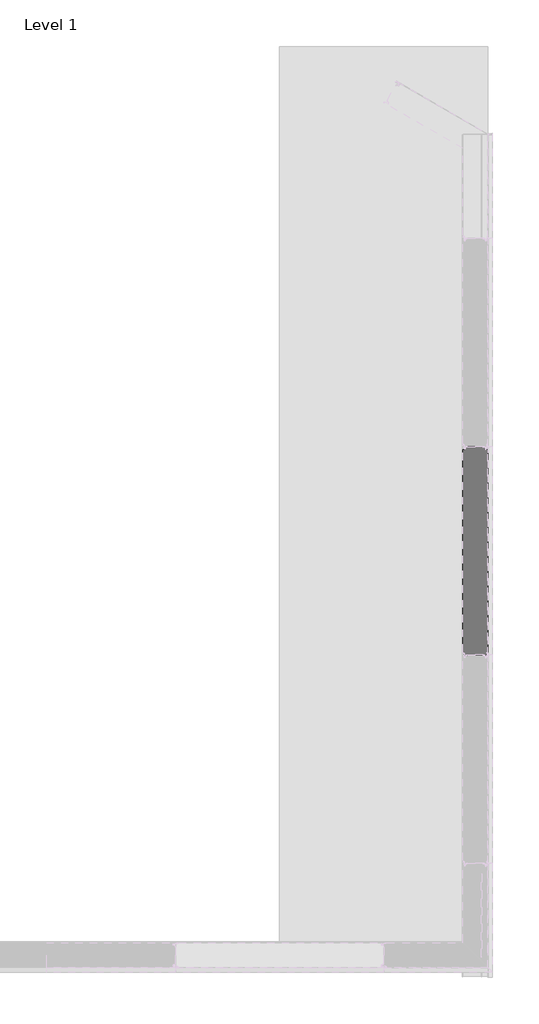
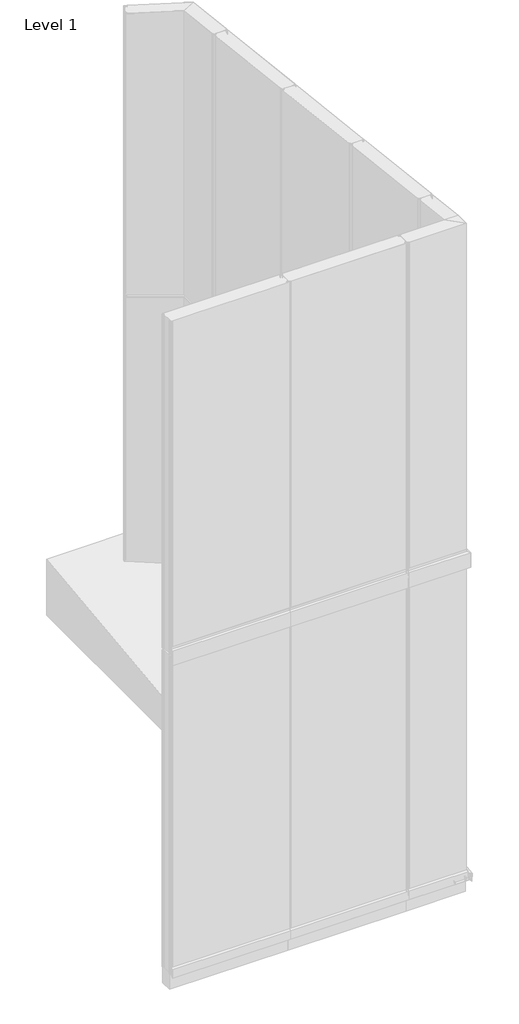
# One storey, part 8 of 16: 1 plate.
"""IFC4 building model written with IfcOpenShell, lengths in millimetres."""

import ifcopenshell
import ifcopenshell.guid

model = None  # the IFC model being written
_history = None  # IfcOwnerHistory: only IFC2X3 demands one
_inside = {}  # id of a spatial element -> (the spatial element, [elements in it])
_under = {}  # id of a project, library or spatial element -> (it, [spatial elements below it])
_declared = {}  # id of a project -> (the project, [libraries it declares])
_typed = {}  # id of a type object -> (the type object, [elements of that type])
_made_of = {}  # id of a material, layer set ... -> (it, [elements and type objects made of it])


def new_model(schema):
    """Start an empty IFC model of exactly this schema.

    Asked for "IFC4X3", IfcOpenShell would pick the latest addendum, in which some entities
    have other attributes; the version numbers below select the first issue.
    IFC2X3 requires an IfcOwnerHistory on every rooted entity: one is made here for all.
    """
    global model, _history
    if schema == "IFC4X3":
        model = ifcopenshell.file(schema_version=(4, 3, 0, 0))
    else:
        model = ifcopenshell.file(schema=schema)
    _inside.clear()
    _under.clear()
    _declared.clear()
    _typed.clear()
    _made_of.clear()
    _history = None
    if model.schema == "IFC2X3":
        org = make("IfcOrganization", Name="unknown")
        user = make(
            "IfcPersonAndOrganization",
            ThePerson=make("IfcPerson", FamilyName="unknown"),
            TheOrganization=org,
        )
        app = make(
            "IfcApplication",
            ApplicationDeveloper=org,
            Version="unknown",
            ApplicationFullName="unknown",
            ApplicationIdentifier="unknown",
        )
        _history = make(
            "IfcOwnerHistory",
            OwningUser=user,
            OwningApplication=app,
            ChangeAction="ADDED",
            CreationDate=0,
        )
    return model


def make(cls, **values):
    """One entity of the class cls with the attributes given. An attribute that is None is left unset."""
    return model.create_entity(
        cls, **{name: value for name, value in values.items() if value is not None}
    )


def rooted(cls, **values):
    """An entity with a GlobalId (a new one), such as an element, a storey or a relation."""
    return make(cls, GlobalId=ifcopenshell.guid.new(), OwnerHistory=_history, **values)


def si_unit(unit_type, name, prefix=None):
    """IfcSIUnit, for example si_unit("LENGTHUNIT", "METRE", prefix="MILLI")."""
    return make("IfcSIUnit", UnitType=unit_type, Prefix=prefix, Name=name)


def assignment(units):
    """IfcUnitAssignment: the units of a project."""
    return None if units is None else make("IfcUnitAssignment", Units=units)


def point(xyz):
    """IfcCartesianPoint."""
    return None if xyz is None else make("IfcCartesianPoint", Coordinates=xyz)


def direction(xyz):
    """IfcDirection."""
    return None if xyz is None else make("IfcDirection", DirectionRatios=xyz)


def frame(location, z_axis=None, x_axis=None):
    """IfcAxis2Placement3D, a coordinate frame: its origin and axes. An axis left out is left unset."""
    return make(
        "IfcAxis2Placement3D",
        Location=point(location),
        Axis=direction(z_axis),
        RefDirection=direction(x_axis),
    )


def origin():
    """The frame at (0, 0, 0) with its axes left unset."""
    return frame((0.0, 0.0, 0.0))


def place(relative_to, where):
    """IfcLocalPlacement: puts the frame where relative to a parent placement (None: the world)."""
    return make(
        "IfcLocalPlacement", PlacementRelTo=relative_to, RelativePlacement=where
    )


def context(
    kind, dimensions, precision=None, world=None, true_north=None, identifier=None
):
    """IfcGeometricRepresentationContext, for example the 3D "Model" context."""
    return make(
        "IfcGeometricRepresentationContext",
        ContextIdentifier=identifier,
        ContextType=kind,
        CoordinateSpaceDimension=dimensions,
        Precision=precision,
        WorldCoordinateSystem=world,
        TrueNorth=true_north,
    )


def project(units=None, contexts=None):
    """IfcProject with its units and contexts."""
    return rooted(
        "IfcProject",
        Name="project",
        RepresentationContexts=contexts,
        UnitsInContext=assignment(units),
    )


def spatial(cls, under=None, at=None, **own):
    """A site, building, storey or space (cls), placed at a placement, below another one or the project."""
    s = rooted(cls, ObjectPlacement=at, **own)
    if under is not None:
        _under.setdefault(under.id(), (under, []))[1].append(s)
    return s


def polyline(points):
    """IfcPolyline through the points."""
    return make("IfcPolyline", Points=[point(p) for p in points])


def circle_curve(where, radius):
    """IfcCircle in the frame where."""
    return make("IfcCircle", Position=where, Radius=radius)


def ellipse_curve(where, semi_axis1, semi_axis2):
    """IfcEllipse in the frame where."""
    return make(
        "IfcEllipse", Position=where, SemiAxis1=semi_axis1, SemiAxis2=semi_axis2
    )


def shape(context_of_items, identifier, shape_type, items):
    """IfcShapeRepresentation: the items that make up one representation, for example the "Body"."""
    return make(
        "IfcShapeRepresentation",
        ContextOfItems=context_of_items,
        RepresentationIdentifier=identifier,
        RepresentationType=shape_type,
        Items=items,
    )


def made_of(thing, what):
    """Note that an element or type object is made of a material, layer set ...; save() writes the relation."""
    if what is not None:
        _made_of.setdefault(what.id(), (what, []))[1].append(thing)
    return thing


def element(
    cls,
    number,
    at=None,
    inside=None,
    cuts=None,
    type_object=None,
    material=None,
    context=None,
    identifier="Body",
    shape_type=None,
    held_by="IfcProductDefinitionShape",
    body=None,
    shapes=None,
    **own,
):
    """One element of the class cls, such as IfcWall. Its Tag is "e" and its number.

    at: its placement. inside: the storey or other place that contains it. cuts: it is an
    opening in that element (IfcRelVoidsElement). A single representation is given by context,
    identifier, shape_type and body (its items); several are given by shapes. held_by: the class
    of the entity that holds the representations. save() writes the other relations.
    """
    e = rooted(cls, Tag="e%d" % number, ObjectPlacement=at, **own)
    if body is not None:
        shapes = [shape(context, identifier, shape_type, body)]
    if shapes is not None:
        e.Representation = make(held_by, Representations=shapes)
    if inside is not None:
        _inside.setdefault(inside.id(), (inside, []))[1].append(e)
    if cuts is not None:
        rooted(
            "IfcRelVoidsElement", RelatingBuildingElement=cuts, RelatedOpeningElement=e
        )
    if type_object is not None:
        _typed.setdefault(type_object.id(), (type_object, []))[1].append(e)
    return made_of(e, material)


def aggregate(whole, parts):
    """IfcRelAggregates: a whole, such as a stair, and the parts it consists of."""
    return rooted("IfcRelAggregates", RelatingObject=whole, RelatedObjects=parts)


def save(model, path):
    """Write the relations noted so far, then the file.

    IfcRelAggregates (storeys below a building ...), IfcRelContainedInSpatialStructure (elements
    in a storey), IfcRelDefinesByType, IfcRelAssociatesMaterial and IfcRelDeclares: one each for
    every whole, place, type object, material and project.
    """
    for whole, parts in _under.values():
        aggregate(whole, parts)
    for where, things in _inside.values():
        rooted(
            "IfcRelContainedInSpatialStructure",
            RelatedElements=things,
            RelatingStructure=where,
        )
    for kind, things in _typed.values():
        rooted("IfcRelDefinesByType", RelatedObjects=things, RelatingType=kind)
    for what, things in _made_of.values():
        rooted("IfcRelAssociatesMaterial", RelatedObjects=things, RelatingMaterial=what)
    for by, libraries in _declared.values():
        rooted("IfcRelDeclares", RelatingContext=by, RelatedDefinitions=libraries)
    model.write(path)


def plane_surface(at):
    """IfcPlane: the flat surface through the origin of the frame at, square to its z axis."""
    return make("IfcPlane", Position=at)


def cylinder_surface(at, radius):
    """IfcCylindricalSurface: all points at the distance radius from the z axis of the frame at."""
    return make("IfcCylindricalSurface", Position=at, Radius=radius)


def revolved_surface(curve, axis_point, axis_direction):
    """IfcSurfaceOfRevolution: the curve turned about the line through axis_point along axis_direction."""
    return make(
        "IfcSurfaceOfRevolution",
        SweptCurve=make("IfcArbitraryOpenProfileDef", ProfileType="CURVE", Curve=curve),
        AxisPosition=make("IfcAxis1Placement", Location=point(axis_point), Axis=direction(axis_direction)),
    )


def advanced_brep(points, edges, surfaces, faces):
    """IfcAdvancedBrep: a solid bounded by faces that lie on surfaces and meet in shared edges.

    An edge is (start, end): straight between two places in points (the first is 0);
    or (start, end, curve); or (start, end, curve, False) where it runs against its curve.
    A face is (place in surfaces, loops), or (place, loops, False) where it looks against
    its surface's normal. A loop lists edges by number (the first is 1), with a minus sign
    where the edge is run from its end to its start. The first loop is the outer one.
    """
    corners = [point(p) for p in points]
    vertices = [make("IfcVertexPoint", VertexGeometry=c) for c in corners]
    made = []
    for start, end, *more in edges:
        made.append(
            make(
                "IfcEdgeCurve",
                EdgeStart=vertices[start],
                EdgeEnd=vertices[end],
                EdgeGeometry=more[0] if more else make("IfcPolyline", Points=[corners[start], corners[end]]),
                SameSense=more[1] if len(more) > 1 else True,
            )
        )
    hull = []
    for where, loops, *sense in faces:
        bounds = []
        for j, loop in enumerate(loops):
            ring = [make("IfcOrientedEdge", EdgeElement=made[abs(k) - 1], Orientation=k > 0) for k in loop]
            bounds.append(
                make(
                    "IfcFaceOuterBound" if j == 0 else "IfcFaceBound",
                    Bound=make("IfcEdgeLoop", EdgeList=ring),
                    Orientation=True,
                )
            )
        hull.append(make("IfcAdvancedFace", Bounds=bounds, FaceSurface=surfaces[where], SameSense=sense[0] if sense else True))
    return make("IfcAdvancedBrep", Outer=make("IfcClosedShell", CfsFaces=hull))


model = new_model("IFC4")

# Units and contexts
model_context = context("Model", 3, world=origin())
ifc_project = project(units=[si_unit("LENGTHUNIT", "METRE", prefix="MILLI")], contexts=[model_context])

# Site, building, storey
site = spatial("IfcSite", under=ifc_project)
building = spatial("IfcBuilding", under=site)
storey = spatial("IfcBuildingStorey", under=building, Name="Level 1", Elevation=0.0)

# Plate
placement = place(None, origin())
element("IfcPlate", 1, ObjectType="TR_C_V_FTV_Panel : 120/RAL9006/RAL9002", at=placement, inside=storey, context=model_context, shape_type="AdvancedBrep", body=[
    advanced_brep(
    [(-11.0024729, 5469.8069107, 2980.0), (-15.1155057, 5469.8069107, 2980.0), (-15.1155057, 5469.0069107, 2980.0), (-11.0024729, 5469.0069107, 2980.0), (-7.3094438, 5465.9080913, 2980.0), (-6.5661308, 5461.6925541, 2980.0), (-0.1155057, 5462.2569107, 2980.0), (-0.1155057, 5477.0069107, 2980.0), (0.6167274, 5478.7746776, 2980.0), (5.0058147, 5483.1637649, 2980.0), (5.8844943, 5485.2850853, 2980.0), (5.8844943, 6474.6255398, 2980.0), (5.079038, 6476.5700835, 2980.0), (3.2133526, 6478.4357689, 2980.0), (-0.1155057, 6477.0569107, 2980.0), (-0.1155057, 6459.4569107, 2980.0), (-6.9630924, 6458.8578244, 2980.0), (-8.0299177, 6464.9080913, 2980.0), (-11.7229468, 6468.0069107, 2980.0), (-15.1155057, 6468.0069107, 2980.0), (-15.1155057, 6467.2069107, 2980.0), (-11.7229468, 6467.2069107, 2980.0), (-8.8177639, 6464.7691728, 2980.0), (-7.7509386, 6458.7189059, 2980.0), (0.6844943, 6459.4569107, 2980.0), (0.6844943, 6477.0569107, 2980.0), (2.6476671, 6477.8700835, 2980.0), (4.5133526, 6476.004398, 2980.0), (5.0844943, 6474.6255398, 2980.0), (5.0844943, 5485.2850853, 2980.0), (4.4401293, 5483.7294503, 2980.0), (0.051042, 5479.340363, 2980.0), (-0.9155057, 5477.0069107, 2980.0), (-0.9155057, 5462.2569107, 2980.0), (-5.7782846, 5461.8314726, 2980.0), (-6.5215976, 5466.0470099, 2980.0), (-11.0024729, 5469.8069107, 310.4883719), (-15.1155057, 5469.8069107, 310.4883719), (-15.1155057, 5469.0069107, 310.3953487), (-11.0024729, 5469.0069107, 310.3953487), (-7.3094438, 5465.9080913, 310.0350208), (-6.5661308, 5461.6925541, 309.5448421), (-0.1155057, 5462.2569107, 309.6104649), (-0.1155057, 5477.0069107, 311.3255812), (0.6167274, 5478.7746776, 311.5311355), (5.0058147, 5483.1637649, 312.0414945), (5.8844943, 5485.2850853, 312.2881597), (5.8844943, 6474.6255398, 427.3277474), (5.079038, 6476.5700835, 427.5538571), (3.2133526, 6478.4357689, 427.7707973), (-0.1155057, 6477.0569107, 427.6104649), (-0.1155057, 6459.4569107, 425.5639533), (-6.9630924, 6458.8578244, 425.4942921), (-8.0299177, 6464.9080913, 426.1978115), (-11.7229468, 6468.0069107, 426.5581394), (-15.1155057, 6468.0069107, 426.5581394), (-15.1155057, 6467.2069107, 426.4651161), (-11.7229468, 6467.2069107, 426.4651161), (-8.8177639, 6464.7691728, 426.1816582), (-7.7509386, 6458.7189059, 425.4781388), (0.6844943, 6459.4569107, 425.5639533), (0.6844943, 6477.0569107, 427.6104649), (2.6476671, 6477.8700835, 427.7050199), (4.5133526, 6476.004398, 427.4880798), (5.0844943, 6474.6255398, 427.3277474), (5.0844943, 5485.2850853, 312.2881597), (4.4401293, 5483.7294503, 312.1072719), (0.051042, 5479.340363, 311.5969129), (-0.9155057, 5477.0069107, 311.3255812), (-0.9155057, 5462.2569107, 309.6104649), (-5.7782846, 5461.8314726, 309.5609954), (-6.5215976, 5466.0470099, 310.0511742)],
    [
        (0, 1),
        (1, 2),
        (2, 3),
        (3, 4, circle_curve(frame((-11.0024729, 5465.2569107, 2980.0), z_axis=(0.0, 0.0, -1.0), x_axis=(0.0, -1.0, 0.0)), 3.75)),
        (4, 5),
        (5, 6, circle_curve(frame((-3.3655057, 5462.2569107, 2980.0), z_axis=(0.0, 0.0, 1.0), x_axis=(0.0, -1.0, 0.0)), 3.25)),
        (6, 7),
        (7, 8, circle_curve(frame((2.3844943, 5477.0069107, 2980.0), z_axis=(0.0, 0.0, -1.0), x_axis=(0.0, -1.0, 0.0)), 2.5)),
        (8, 9),
        (9, 10, circle_curve(frame((2.8844943, 5485.2850853, 2980.0), z_axis=(0.0, 0.0, 1.0), x_axis=(0.0, -1.0, 0.0)), 3.0)),
        (10, 11),
        (11, 12, circle_curve(frame((3.1344943, 6474.6255398, 2980.0), z_axis=(0.0, 0.0, 1.0), x_axis=(0.0, -1.0, 0.0)), 2.75)),
        (12, 13),
        (13, 14, circle_curve(frame((1.8344943, 6477.0569107, 2980.0), z_axis=(0.0, 0.0, 1.0), x_axis=(0.0, -1.0, 0.0)), 1.95)),
        (14, 15),
        (15, 16, circle_curve(frame((-3.5655057, 6459.4569107, 2980.0), z_axis=(0.0, 0.0, -1.0), x_axis=(0.0, -1.0, 0.0)), 3.45)),
        (16, 17),
        (17, 18, circle_curve(frame((-11.7229468, 6464.2569107, 2980.0), z_axis=(0.0, 0.0, 1.0), x_axis=(0.0, -1.0, 0.0)), 3.75)),
        (18, 19),
        (19, 20),
        (20, 21),
        (21, 22, circle_curve(frame((-11.7229468, 6464.2569107, 2980.0), z_axis=(0.0, 0.0, -1.0), x_axis=(0.0, -1.0, 0.0)), 2.95)),
        (22, 23),
        (23, 24, circle_curve(frame((-3.5655057, 6459.4569107, 2980.0), z_axis=(0.0, 0.0, 1.0), x_axis=(0.0, -1.0, 0.0)), 4.25)),
        (24, 25),
        (25, 26, circle_curve(frame((1.8344943, 6477.0569107, 2980.0), z_axis=(0.0, 0.0, -1.0), x_axis=(0.0, -1.0, 0.0)), 1.15)),
        (26, 27),
        (27, 28, circle_curve(frame((3.1344943, 6474.6255398, 2980.0), z_axis=(0.0, 0.0, -1.0), x_axis=(0.0, -1.0, 0.0)), 1.95)),
        (28, 29),
        (29, 30, circle_curve(frame((2.8844943, 5485.2850853, 2980.0), z_axis=(0.0, 0.0, -1.0), x_axis=(0.0, -1.0, 0.0)), 2.2)),
        (30, 31),
        (31, 32, circle_curve(frame((2.3844943, 5477.0069107, 2980.0), z_axis=(0.0, 0.0, 1.0), x_axis=(0.0, -1.0, 0.0)), 3.3)),
        (32, 33),
        (33, 34, circle_curve(frame((-3.3655057, 5462.2569107, 2980.0), z_axis=(0.0, 0.0, -1.0), x_axis=(0.0, -1.0, 0.0)), 2.45)),
        (34, 35),
        (35, 0, circle_curve(frame((-11.0024729, 5465.2569107, 2980.0), z_axis=(0.0, 0.0, 1.0), x_axis=(0.0, -1.0, 0.0)), 4.55)),
        (0, 36),
        (36, 37),
        (37, 1),
        (37, 38),
        (38, 2),
        (38, 39),
        (39, 3),
        (39, 40, ellipse_curve(frame((-11.0024729, 5465.2569107, 309.9593022), z_axis=(0.0, 0.11550085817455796, -0.9933073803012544), x_axis=(0.0, -0.9933073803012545, -0.11550085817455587)), 3.7752664, 3.75)),
        (40, 4),
        (40, 41),
        (41, 5),
        (41, 42, ellipse_curve(frame((-3.3655057, 5462.2569107, 309.6104649), z_axis=(0.0, -0.11550085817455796, 0.9933073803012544), x_axis=(0.0, 0.9933073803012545, 0.11550085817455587)), 3.2718976, 3.25)),
        (42, 6),
        (42, 43),
        (43, 7),
        (43, 44, ellipse_curve(frame((2.3844943, 5477.0069107, 311.3255812), z_axis=(0.0, 0.11550085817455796, -0.9933073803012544), x_axis=(0.0, -0.9933073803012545, -0.11550085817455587)), 2.5168443, 2.5)),
        (44, 8),
        (44, 45),
        (45, 9),
        (45, 46, ellipse_curve(frame((2.8844943, 5485.2850853, 312.2881597), z_axis=(0.0, -0.11550085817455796, 0.9933073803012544), x_axis=(0.0, 0.9933073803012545, 0.11550085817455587)), 3.0202131, 3.0)),
        (46, 10),
        (46, 47),
        (47, 11),
        (47, 48, ellipse_curve(frame((3.1344943, 6474.6255398, 427.3277474), z_axis=(0.0, -0.11550085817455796, 0.9933073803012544), x_axis=(0.0, 0.9933073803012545, 0.11550085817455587)), 2.7685287, 2.75)),
        (48, 12),
        (48, 49),
        (49, 13),
        (49, 50, ellipse_curve(frame((1.8344943, 6477.0569107, 427.6104649), z_axis=(0.0, -0.11550085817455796, 0.9933073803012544), x_axis=(0.0, 0.9933073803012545, 0.11550085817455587)), 1.9631385, 1.95)),
        (50, 14),
        (50, 51),
        (51, 15),
        (51, 52, ellipse_curve(frame((-3.5655057, 6459.4569107, 425.5639533), z_axis=(0.0, 0.11550085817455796, -0.9933073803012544), x_axis=(0.0, -0.9933073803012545, -0.11550085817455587)), 3.4732451, 3.45)),
        (52, 16),
        (52, 53),
        (53, 17),
        (53, 54, ellipse_curve(frame((-11.7229468, 6464.2569107, 426.1220929), z_axis=(0.0, -0.11550085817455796, 0.9933073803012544), x_axis=(0.0, 0.9933073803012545, 0.11550085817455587)), 3.7752664, 3.75)),
        (54, 18),
        (54, 55),
        (55, 19),
        (55, 56),
        (56, 20),
        (56, 57),
        (57, 21),
        (57, 58, ellipse_curve(frame((-11.7229468, 6464.2569107, 426.1220929), z_axis=(0.0, 0.11550085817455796, -0.9933073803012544), x_axis=(0.0, -0.9933073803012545, -0.11550085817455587)), 2.9698763, 2.95)),
        (58, 22),
        (58, 59),
        (59, 23),
        (59, 60, ellipse_curve(frame((-3.5655057, 6459.4569107, 425.5639533), z_axis=(0.0, -0.11550085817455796, 0.9933073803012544), x_axis=(0.0, 0.9933073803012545, 0.11550085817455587)), 4.2786353, 4.25)),
        (60, 24),
        (60, 61),
        (61, 25),
        (61, 62, ellipse_curve(frame((1.8344943, 6477.0569107, 427.6104649), z_axis=(0.0, 0.11550085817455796, -0.9933073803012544), x_axis=(0.0, -0.9933073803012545, -0.11550085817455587)), 1.1577484, 1.15)),
        (62, 26),
        (62, 63),
        (63, 27),
        (63, 64, ellipse_curve(frame((3.1344943, 6474.6255398, 427.3277474), z_axis=(0.0, 0.11550085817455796, -0.9933073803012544), x_axis=(0.0, -0.9933073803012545, -0.11550085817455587)), 1.9631385, 1.95)),
        (64, 28),
        (64, 65),
        (65, 29),
        (65, 66, ellipse_curve(frame((2.8844943, 5485.2850853, 312.2881597), z_axis=(0.0, 0.11550085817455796, -0.9933073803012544), x_axis=(0.0, -0.9933073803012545, -0.11550085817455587)), 2.214823, 2.2)),
        (66, 30),
        (66, 67),
        (67, 31),
        (67, 68, ellipse_curve(frame((2.3844943, 5477.0069107, 311.3255812), z_axis=(0.0, -0.11550085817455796, 0.9933073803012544), x_axis=(0.0, 0.9933073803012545, 0.11550085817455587)), 3.3222345, 3.3)),
        (68, 32),
        (68, 69),
        (69, 33),
        (69, 70, ellipse_curve(frame((-3.3655057, 5462.2569107, 309.6104649), z_axis=(0.0, 0.11550085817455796, -0.9933073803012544), x_axis=(0.0, -0.9933073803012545, -0.11550085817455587)), 2.4665074, 2.45)),
        (70, 34),
        (70, 71),
        (71, 35),
        (71, 36, ellipse_curve(frame((-11.0024729, 5465.2569107, 309.9593022), z_axis=(0.0, -0.11550085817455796, 0.9933073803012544), x_axis=(0.0, 0.9933073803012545, 0.11550085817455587)), 4.5806566, 4.55)),
    ],
    [
        plane_surface(frame((-15.1155057, 5469.8069107, 2980.0), z_axis=(0.0, 0.0, 1.0), x_axis=(-1.0, 0.0, 0.0))),
        plane_surface(frame((-11.0024729, 5469.8069107, 2980.0), z_axis=(0.0, 1.0, 0.0), x_axis=(0.0, 0.0, -1.0))),
        plane_surface(frame((-15.1155057, 5469.8069107, 2980.0), z_axis=(-1.0, 0.0, 0.0), x_axis=(0.0, 0.0, -1.0))),
        plane_surface(frame((-15.1155057, 5469.0069107, 2980.0), z_axis=(0.0, -1.0, 0.0), x_axis=(0.0, 0.0, -1.0))),
        revolved_surface(polyline([(-11.0024729, 5461.5069107, 309.52325569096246), (-11.0024729, 5461.5069107, 2980.0)]), (-11.0024729, 5465.2569107, 150.0), (0.0, 0.0, -1.0)),
        plane_surface(frame((-7.3094438, 5465.9080913, 2980.0), z_axis=(-0.9848077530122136, -0.17364817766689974, 0.0), x_axis=(0.0, 0.0, -1.0))),
        cylinder_surface(frame((-3.3655057, 5462.2569107, 150.0), z_axis=(0.0, 0.0, 1.0), x_axis=(0.0, -1.0, 0.0)), 3.25),
        plane_surface(frame((-0.1155057, 5462.2569107, 2980.0), z_axis=(1.0, 0.0, 0.0), x_axis=(0.0, 0.0, -1.0))),
        revolved_surface(polyline([(2.3844943, 5474.5069107, 311.03488352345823), (2.3844943, 5474.5069107, 2980.0)]), (2.3844943, 5477.0069107, 150.0), (0.0, 0.0, -1.0)),
        plane_surface(frame((0.6167274, 5478.7746776, 2980.0), z_axis=(0.7071067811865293, -0.7071067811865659, 0.0), x_axis=(0.0, 0.0, -1.0))),
        cylinder_surface(frame((2.8844943, 5485.2850853, 150.0), z_axis=(0.0, 0.0, 1.0), x_axis=(0.0, -1.0, 0.0)), 3.0),
        plane_surface(frame((5.8844943, 5485.2850853, 2980.0), z_axis=(1.0, 0.0, 0.0), x_axis=(0.0, 0.0, -1.0))),
        cylinder_surface(frame((3.1344943, 6474.6255398, 150.0), z_axis=(0.0, 0.0, 1.0), x_axis=(0.0, -1.0, 0.0)), 2.75),
        plane_surface(frame((5.079038, 6476.5700835, 2980.0), z_axis=(0.7071067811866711, 0.707106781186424, 0.0), x_axis=(0.0, 0.0, -1.0))),
        cylinder_surface(frame((1.8344943, 6477.0569107, 150.0), z_axis=(0.0, 0.0, 1.0), x_axis=(0.0, -1.0, 0.0)), 1.95),
        plane_surface(frame((-0.1155057, 6477.0569107, 2980.0), z_axis=(-1.0, 0.0, 0.0), x_axis=(0.0, 0.0, -1.0))),
        revolved_surface(polyline([(-3.5655057, 6456.0069107, 425.16279051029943), (-3.5655057, 6456.0069107, 2980.0)]), (-3.5655057, 6459.4569107, 150.0), (0.0, 0.0, -1.0)),
        plane_surface(frame((-6.9630924, 6458.8578244, 2980.0), z_axis=(0.9848077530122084, 0.17364817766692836, 0.0), x_axis=(0.0, 0.0, -1.0))),
        cylinder_surface(frame((-11.7229468, 6464.2569107, 150.0), z_axis=(0.0, 0.0, 1.0), x_axis=(0.0, -1.0, 0.0)), 3.75),
        plane_surface(frame((-11.7229468, 6468.0069107, 2980.0), z_axis=(0.0, 1.0, 0.0), x_axis=(0.0, 0.0, -1.0))),
        plane_surface(frame((-15.1155057, 6468.0069107, 2980.0), z_axis=(-1.0, 0.0, 0.0), x_axis=(0.0, 0.0, -1.0))),
        plane_surface(frame((-15.1155057, 6467.2069107, 2980.0), z_axis=(0.0, -1.0, 0.0), x_axis=(0.0, 0.0, -1.0))),
        revolved_surface(polyline([(-11.7229468, 6461.3069107, 425.7790696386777), (-11.7229468, 6461.3069107, 2980.0)]), (-11.7229468, 6464.2569107, 150.0), (0.0, 0.0, -1.0)),
        plane_surface(frame((-8.8177639, 6464.7691728, 2980.0), z_axis=(-0.9848077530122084, -0.17364817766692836, 0.0), x_axis=(0.0, 0.0, -1.0))),
        cylinder_surface(frame((-3.5655057, 6459.4569107, 150.0), z_axis=(0.0, 0.0, 1.0), x_axis=(0.0, -1.0, 0.0)), 4.25),
        plane_surface(frame((0.6844943, 6459.4569107, 2980.0), z_axis=(1.0, 0.0, 0.0), x_axis=(0.0, 0.0, -1.0))),
        revolved_surface(polyline([(1.8344943, 6475.9069107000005, 427.4767439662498), (1.8344943, 6475.9069107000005, 2980.0)]), (1.8344943, 6477.0569107, 150.0), (0.0, 0.0, -1.0)),
        plane_surface(frame((2.6476671, 6477.8700835, 2980.0), z_axis=(-0.7071067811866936, -0.7071067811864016, 0.0), x_axis=(0.0, 0.0, -1.0))),
        revolved_surface(polyline([(3.1344943, 6472.6755398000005, 427.1010032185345), (3.1344943, 6472.6755398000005, 2980.0)]), (3.1344943, 6474.6255398, 150.0), (0.0, 0.0, -1.0)),
        plane_surface(frame((5.0844943, 6474.6255398, 2980.0), z_axis=(-1.0, 0.0, 0.0), x_axis=(0.0, 0.0, -1.0))),
        revolved_surface(polyline([(2.8844943, 5483.0850853, 312.03234574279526), (2.8844943, 5483.0850853, 2980.0)]), (2.8844943, 5485.2850853, 150.0), (0.0, 0.0, -1.0)),
        plane_surface(frame((4.4401293, 5483.7294503, 2980.0), z_axis=(-0.7071067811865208, 0.7071067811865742, 0.0), x_axis=(0.0, 0.0, -1.0))),
        cylinder_surface(frame((2.3844943, 5477.0069107, 150.0), z_axis=(0.0, 0.0, 1.0), x_axis=(0.0, -1.0, 0.0)), 3.3),
        plane_surface(frame((-0.9155057, 5477.0069107, 2980.0), z_axis=(-1.0, 0.0, 0.0), x_axis=(0.0, 0.0, -1.0))),
        revolved_surface(polyline([(-3.3655057, 5459.8069107, 309.3255811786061), (-3.3655057, 5459.8069107, 2980.0)]), (-3.3655057, 5462.2569107, 150.0), (0.0, 0.0, -1.0)),
        plane_surface(frame((-5.7782846, 5461.8314726, 2980.0), z_axis=(0.9848077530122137, 0.17364817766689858, 0.0), x_axis=(0.0, 0.0, -1.0))),
        cylinder_surface(frame((-11.0024729, 5465.2569107, 150.0), z_axis=(0.0, 0.0, 1.0), x_axis=(0.0, -1.0, 0.0)), 4.55),
        plane_surface(frame((5.8844943, 6239.6069121, 400.0), z_axis=(0.0, 0.11550085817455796, -0.9933073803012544), x_axis=(0.0, 0.9933073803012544, 0.11550085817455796))),
    ],
    [
        (0, [[1, 2, 3, 4, 5, 6, 7, 8, 9, 10, 11, 12, 13, 14, 15, 16, 17, 18, 19, 20, 21, 22, 23, 24, 25, 26, 27, 28, 29, 30, 31, 32, 33, 34, 35, 36]]),
        (1, [[-1, 37, 38, 39]]),
        (2, [[-2, -39, 40, 41]]),
        (3, [[-3, -41, 42, 43]]),
        (4, [[-4, -43, 44, 45]]),
        (5, [[-5, -45, 46, 47]]),
        (6, [[-6, -47, 48, 49]]),
        (7, [[-7, -49, 50, 51]]),
        (8, [[-8, -51, 52, 53]]),
        (9, [[-9, -53, 54, 55]]),
        (10, [[-10, -55, 56, 57]]),
        (11, [[-11, -57, 58, 59]]),
        (12, [[-12, -59, 60, 61]]),
        (13, [[-13, -61, 62, 63]]),
        (14, [[-14, -63, 64, 65]]),
        (15, [[-15, -65, 66, 67]]),
        (16, [[-16, -67, 68, 69]]),
        (17, [[-17, -69, 70, 71]]),
        (18, [[-18, -71, 72, 73]]),
        (19, [[-19, -73, 74, 75]]),
        (20, [[-20, -75, 76, 77]]),
        (21, [[-21, -77, 78, 79]]),
        (22, [[-22, -79, 80, 81]]),
        (23, [[-23, -81, 82, 83]]),
        (24, [[-24, -83, 84, 85]]),
        (25, [[-25, -85, 86, 87]]),
        (26, [[-26, -87, 88, 89]]),
        (27, [[-27, -89, 90, 91]]),
        (28, [[-28, -91, 92, 93]]),
        (29, [[-29, -93, 94, 95]]),
        (30, [[-30, -95, 96, 97]]),
        (31, [[-31, -97, 98, 99]]),
        (32, [[-32, -99, 100, 101]]),
        (33, [[-33, -101, 102, 103]]),
        (34, [[-34, -103, 104, 105]]),
        (35, [[-35, -105, 106, 107]]),
        (36, [[-36, -107, 108, -37]]),
        (37, [[-38, -108, -106, -104, -102, -100, -98, -96, -94, -92, -90, -88, -86, -84, -82, -80, -78, -76, -74, -72, -70, -68, -66, -64, -62, -60, -58, -56, -54, -52, -50, -48, -46, -44, -42, -40]]),
    ],
),
    advanced_brep(
    [(-17.8155057, 6469.6069107, 2980.0), (-90.4155057, 6469.6069107, 2980.0), (-90.4155057, 6467.2069107, 2980.0), (-96.5080645, 6467.2069107, 2980.0), (-99.4132474, 6464.7691728, 2980.0), (-100.4800727, 6458.7189059, 2980.0), (-104.6655057, 6455.2069107, 2980.0), (-113.3155057, 6455.2069107, 2980.0), (-113.3155057, 5485.2850853, 2980.0), (-112.6711406, 5483.7294503, 2980.0), (-108.2820533, 5479.340363, 2980.0), (-107.3155057, 5477.0069107, 2980.0), (-107.3155057, 5469.6069118, 2980.0), (-0.9155057, 5469.6069118, 2980.0), (-0.9155057, 5477.0069107, 2980.0), (0.051042, 5479.340363, 2980.0), (4.4401293, 5483.7294503, 2980.0), (5.0844943, 5485.2850853, 2980.0), (5.0844943, 6455.2069107, 2980.0), (-3.5655057, 6455.2069107, 2980.0), (-7.7509386, 6458.7189059, 2980.0), (-8.8177639, 6464.7691728, 2980.0), (-11.7229468, 6467.2069107, 2980.0), (-17.8155057, 6467.2069107, 2980.0), (-17.8155057, 6469.6069107, 426.7441859), (-90.4155057, 6469.6069107, 426.7441859), (-90.4155057, 6467.2069107, 426.4651161), (-96.5080645, 6467.2069107, 426.4651161), (-99.4132474, 6464.7691728, 426.1816582), (-100.4800727, 6458.7189059, 425.4781388), (-104.6655057, 6455.2069107, 425.0697673), (-113.3155057, 6455.2069107, 425.0697673), (-113.3155057, 5485.2850853, 312.2881597), (-112.6711406, 5483.7294503, 312.1072719), (-108.2820533, 5479.340363, 311.5969129), (-107.3155057, 5477.0069107, 311.3255812), (-107.3155057, 5469.6069118, 310.4651162), (-0.9155057, 5469.6069118, 310.4651162), (-0.9155057, 5477.0069107, 311.3255812), (0.051042, 5479.340363, 311.5969129), (4.4401293, 5483.7294503, 312.1072719), (5.0844943, 5485.2850853, 312.2881597), (5.0844943, 6455.2069107, 425.0697673), (-3.5655057, 6455.2069107, 425.0697673), (-7.7509386, 6458.7189059, 425.4781388), (-8.8177639, 6464.7691728, 426.1816582), (-11.7229468, 6467.2069107, 426.4651161), (-17.8155057, 6467.2069107, 426.4651161)],
    [
        (0, 1),
        (1, 2),
        (2, 3),
        (3, 4, circle_curve(frame((-96.5080645, 6464.2569107, 2980.0), z_axis=(0.0, 0.0, 1.0), x_axis=(0.0, -1.0, 0.0)), 2.95)),
        (4, 5),
        (5, 6, circle_curve(frame((-104.6655057, 6459.4569107, 2980.0), z_axis=(0.0, 0.0, -1.0), x_axis=(0.0, -1.0, 0.0)), 4.25)),
        (6, 7),
        (7, 8),
        (8, 9, circle_curve(frame((-111.1155057, 5485.2850853, 2980.0), z_axis=(0.0, 0.0, 1.0), x_axis=(0.0, -1.0, 0.0)), 2.2)),
        (9, 10),
        (10, 11, circle_curve(frame((-110.6155057, 5477.0069107, 2980.0), z_axis=(0.0, 0.0, -1.0), x_axis=(0.0, -1.0, 0.0)), 3.3)),
        (11, 12),
        (12, 13),
        (13, 14),
        (14, 15, circle_curve(frame((2.3844943, 5477.0069107, 2980.0), z_axis=(0.0, 0.0, -1.0), x_axis=(0.0, -1.0, 0.0)), 3.3)),
        (15, 16),
        (16, 17, circle_curve(frame((2.8844943, 5485.2850853, 2980.0), z_axis=(0.0, 0.0, 1.0), x_axis=(0.0, -1.0, 0.0)), 2.2)),
        (17, 18),
        (18, 19),
        (19, 20, circle_curve(frame((-3.5655057, 6459.4569107, 2980.0), z_axis=(0.0, 0.0, -1.0), x_axis=(0.0, -1.0, 0.0)), 4.25)),
        (20, 21),
        (21, 22, circle_curve(frame((-11.7229468, 6464.2569107, 2980.0), z_axis=(0.0, 0.0, 1.0), x_axis=(0.0, -1.0, 0.0)), 2.95)),
        (22, 23),
        (23, 0),
        (0, 24),
        (24, 25),
        (25, 1),
        (25, 26),
        (26, 2),
        (26, 27),
        (27, 3),
        (27, 28, ellipse_curve(frame((-96.5080645, 6464.2569107, 426.1220929), z_axis=(0.0, -0.11550085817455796, 0.9933073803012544), x_axis=(0.0, 0.9933073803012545, 0.11550085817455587)), 2.9698763, 2.95)),
        (28, 4),
        (28, 29),
        (29, 5),
        (29, 30, ellipse_curve(frame((-104.6655057, 6459.4569107, 425.5639533), z_axis=(0.0, 0.11550085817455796, -0.9933073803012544), x_axis=(0.0, -0.9933073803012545, -0.11550085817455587)), 4.2786353, 4.25)),
        (30, 6),
        (30, 31),
        (31, 7),
        (31, 32),
        (32, 8),
        (32, 33, ellipse_curve(frame((-111.1155057, 5485.2850853, 312.2881597), z_axis=(0.0, -0.11550085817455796, 0.9933073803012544), x_axis=(0.0, 0.9933073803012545, 0.11550085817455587)), 2.214823, 2.2)),
        (33, 9),
        (33, 34),
        (34, 10),
        (34, 35, ellipse_curve(frame((-110.6155057, 5477.0069107, 311.3255812), z_axis=(0.0, 0.11550085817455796, -0.9933073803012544), x_axis=(0.0, -0.9933073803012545, -0.11550085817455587)), 3.3222345, 3.3)),
        (35, 11),
        (35, 36),
        (36, 12),
        (36, 37),
        (37, 13),
        (37, 38),
        (38, 14),
        (38, 39, ellipse_curve(frame((2.3844943, 5477.0069107, 311.3255812), z_axis=(0.0, 0.11550085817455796, -0.9933073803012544), x_axis=(0.0, -0.9933073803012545, -0.11550085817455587)), 3.3222345, 3.3)),
        (39, 15),
        (39, 40),
        (40, 16),
        (40, 41, ellipse_curve(frame((2.8844943, 5485.2850853, 312.2881597), z_axis=(0.0, -0.11550085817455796, 0.9933073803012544), x_axis=(0.0, 0.9933073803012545, 0.11550085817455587)), 2.214823, 2.2)),
        (41, 17),
        (41, 42),
        (42, 18),
        (42, 43),
        (43, 19),
        (43, 44, ellipse_curve(frame((-3.5655057, 6459.4569107, 425.5639533), z_axis=(0.0, 0.11550085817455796, -0.9933073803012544), x_axis=(0.0, -0.9933073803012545, -0.11550085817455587)), 4.2786353, 4.25)),
        (44, 20),
        (44, 45),
        (45, 21),
        (45, 46, ellipse_curve(frame((-11.7229468, 6464.2569107, 426.1220929), z_axis=(0.0, -0.11550085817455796, 0.9933073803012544), x_axis=(0.0, 0.9933073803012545, 0.11550085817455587)), 2.9698763, 2.95)),
        (46, 22),
        (46, 47),
        (47, 23),
        (47, 24),
    ],
    [
        plane_surface(frame((-90.4155057, 6469.6069107, 2980.0), z_axis=(0.0, 0.0, 1.0), x_axis=(-1.0, 0.0, 0.0))),
        plane_surface(frame((-17.8155057, 6469.6069107, 2980.0), z_axis=(0.0, 1.0, 0.0), x_axis=(0.0, 0.0, -1.0))),
        plane_surface(frame((-90.4155057, 6469.6069107, 2980.0), z_axis=(-1.0, 0.0, 0.0), x_axis=(0.0, 0.0, -1.0))),
        plane_surface(frame((-90.4155057, 6467.2069107, 2980.0), z_axis=(0.0, 1.0, 0.0), x_axis=(0.0, 0.0, -1.0))),
        cylinder_surface(frame((-96.5080645, 6464.2569107, 150.0), z_axis=(0.0, 0.0, 1.0), x_axis=(0.0, -1.0, 0.0)), 2.95),
        plane_surface(frame((-99.4132474, 6464.7691728, 2980.0), z_axis=(-0.9848077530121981, 0.17364817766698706, 0.0), x_axis=(0.0, 0.0, -1.0))),
        revolved_surface(polyline([(-104.6655057, 6455.2069107, 425.069767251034), (-104.6655057, 6455.2069107, 2980.0)]), (-104.6655057, 6459.4569107, 150.0), (0.0, 0.0, -1.0)),
        plane_surface(frame((-104.6655057, 6455.2069107, 2980.0), z_axis=(0.0, 1.0, 0.0), x_axis=(0.0, 0.0, -1.0))),
        plane_surface(frame((-113.3155057, 6455.2069107, 2980.0), z_axis=(-1.0, 0.0, 0.0), x_axis=(0.0, 0.0, -1.0))),
        cylinder_surface(frame((-111.1155057, 5485.2850853, 150.0), z_axis=(0.0, 0.0, 1.0), x_axis=(0.0, -1.0, 0.0)), 2.2),
        plane_surface(frame((-112.6711406, 5483.7294503, 2980.0), z_axis=(-0.7071067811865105, -0.7071067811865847, 0.0), x_axis=(0.0, 0.0, -1.0))),
        revolved_surface(polyline([(-110.6155057, 5473.7069107, 310.9418602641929), (-110.6155057, 5473.7069107, 2980.0)]), (-110.6155057, 5477.0069107, 150.0), (0.0, 0.0, -1.0)),
        plane_surface(frame((-107.3155057, 5477.0069107, 2980.0), z_axis=(-1.0, 0.0, 0.0), x_axis=(0.0, 0.0, -1.0))),
        plane_surface(frame((-107.3155057, 5469.6069118, 2980.0), z_axis=(0.0, -1.0, 0.0), x_axis=(0.0, 0.0, -1.0))),
        plane_surface(frame((-0.9155057, 5469.6069118, 2980.0), z_axis=(1.0, 0.0, 0.0), x_axis=(0.0, 0.0, -1.0))),
        revolved_surface(polyline([(2.3844943, 5473.7069107, 310.9418602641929), (2.3844943, 5473.7069107, 2980.0)]), (2.3844943, 5477.0069107, 150.0), (0.0, 0.0, -1.0)),
        plane_surface(frame((0.051042, 5479.340363, 2980.0), z_axis=(0.7071067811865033, -0.7071067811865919, 0.0), x_axis=(0.0, 0.0, -1.0))),
        cylinder_surface(frame((2.8844943, 5485.2850853, 150.0), z_axis=(0.0, 0.0, 1.0), x_axis=(0.0, -1.0, 0.0)), 2.2),
        plane_surface(frame((5.0844943, 5485.2850853, 2980.0), z_axis=(1.0, 0.0, 0.0), x_axis=(0.0, 0.0, -1.0))),
        plane_surface(frame((5.0844943, 6455.2069107, 2980.0), z_axis=(0.0, 1.0, 0.0), x_axis=(0.0, 0.0, -1.0))),
        revolved_surface(polyline([(-3.5655057, 6455.2069107, 425.069767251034), (-3.5655057, 6455.2069107, 2980.0)]), (-3.5655057, 6459.4569107, 150.0), (0.0, 0.0, -1.0)),
        plane_surface(frame((-7.7509386, 6458.7189059, 2980.0), z_axis=(0.9848077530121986, 0.17364817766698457, 0.0), x_axis=(0.0, 0.0, -1.0))),
        cylinder_surface(frame((-11.7229468, 6464.2569107, 150.0), z_axis=(0.0, 0.0, 1.0), x_axis=(0.0, -1.0, 0.0)), 2.95),
        plane_surface(frame((-11.7229468, 6467.2069107, 2980.0), z_axis=(0.0, 1.0, 0.0), x_axis=(0.0, 0.0, -1.0))),
        plane_surface(frame((-17.8155057, 6467.2069107, 2980.0), z_axis=(1.0, 0.0, 0.0), x_axis=(0.0, 0.0, -1.0))),
        plane_surface(frame((5.8844943, 6239.6069121, 400.0), z_axis=(0.0, 0.11550085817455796, -0.9933073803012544), x_axis=(0.0, 0.9933073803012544, 0.11550085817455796))),
    ],
    [
        (0, [[1, 2, 3, 4, 5, 6, 7, 8, 9, 10, 11, 12, 13, 14, 15, 16, 17, 18, 19, 20, 21, 22, 23, 24]]),
        (1, [[-1, 25, 26, 27]]),
        (2, [[-2, -27, 28, 29]]),
        (3, [[-3, -29, 30, 31]]),
        (4, [[-4, -31, 32, 33]]),
        (5, [[-5, -33, 34, 35]]),
        (6, [[-6, -35, 36, 37]]),
        (7, [[-7, -37, 38, 39]]),
        (8, [[-8, -39, 40, 41]]),
        (9, [[-9, -41, 42, 43]]),
        (10, [[-10, -43, 44, 45]]),
        (11, [[-11, -45, 46, 47]]),
        (12, [[-12, -47, 48, 49]]),
        (13, [[-13, -49, 50, 51]]),
        (14, [[-14, -51, 52, 53]]),
        (15, [[-15, -53, 54, 55]]),
        (16, [[-16, -55, 56, 57]]),
        (17, [[-17, -57, 58, 59]]),
        (18, [[-18, -59, 60, 61]]),
        (19, [[-19, -61, 62, 63]]),
        (20, [[-20, -63, 64, 65]]),
        (21, [[-21, -65, 66, 67]]),
        (22, [[-22, -67, 68, 69]]),
        (23, [[-23, -69, 70, 71]]),
        (24, [[-24, -71, 72, -25]]),
        (25, [[-26, -72, -70, -68, -66, -64, -62, -60, -58, -56, -54, -52, -50, -48, -46, -44, -42, -40, -38, -36, -34, -32, -30, -28]]),
    ],
),
    advanced_brep(
    [(-97.2285384, 5469.8069107, 2980.0), (-101.7094137, 5466.0470099, 2980.0), (-102.4527267, 5461.8314726, 2980.0), (-107.3155057, 5462.2569107, 2980.0), (-107.3155057, 5477.0069107, 2980.0), (-108.2820533, 5479.340363, 2980.0), (-112.6711406, 5483.7294503, 2980.0), (-113.3155057, 5485.2850853, 2980.0), (-113.3155057, 6474.6255398, 2980.0), (-112.7443639, 6476.004398, 2980.0), (-110.8786785, 6477.8700835, 2980.0), (-108.9155057, 6477.0569107, 2980.0), (-108.9155057, 6459.4569107, 2980.0), (-100.4800727, 6458.7189059, 2980.0), (-99.4132474, 6464.7691728, 2980.0), (-96.5080645, 6467.2069107, 2980.0), (-93.1155057, 6467.2069107, 2980.0), (-93.1155057, 6468.0069107, 2980.0), (-96.5080645, 6468.0069107, 2980.0), (-100.2010936, 6464.9080913, 2980.0), (-101.2679189, 6458.8578244, 2980.0), (-108.1155057, 6459.4569107, 2980.0), (-108.1155057, 6477.0569107, 2980.0), (-111.4443639, 6478.4357689, 2980.0), (-113.3100493, 6476.5700835, 2980.0), (-114.1155057, 6474.6255398, 2980.0), (-114.1155057, 5485.2850853, 2980.0), (-113.236826, 5483.1637649, 2980.0), (-108.8477387, 5478.7746776, 2980.0), (-108.1155057, 5477.0069107, 2980.0), (-108.1155057, 5462.2569107, 2980.0), (-101.6648805, 5461.6925541, 2980.0), (-100.9215675, 5465.9080913, 2980.0), (-97.2285384, 5469.0069107, 2980.0), (-93.1155057, 5469.0069107, 2980.0), (-93.1155057, 5469.8069107, 2980.0), (-97.2285384, 5469.8069107, 310.4883719), (-101.7094137, 5466.0470099, 310.0511742), (-102.4527267, 5461.8314726, 309.5609954), (-107.3155057, 5462.2569107, 309.6104649), (-107.3155057, 5477.0069107, 311.3255812), (-108.2820533, 5479.340363, 311.5969129), (-112.6711406, 5483.7294503, 312.1072719), (-113.3155057, 5485.2850853, 312.2881597), (-113.3155057, 6474.6255398, 427.3277474), (-112.7443639, 6476.004398, 427.4880798), (-110.8786785, 6477.8700835, 427.7050199), (-108.9155057, 6477.0569107, 427.6104649), (-108.9155057, 6459.4569107, 425.5639533), (-100.4800727, 6458.7189059, 425.4781388), (-99.4132474, 6464.7691728, 426.1816582), (-96.5080645, 6467.2069107, 426.4651161), (-93.1155057, 6467.2069107, 426.4651161), (-93.1155057, 6468.0069107, 426.5581394), (-96.5080645, 6468.0069107, 426.5581394), (-100.2010936, 6464.9080913, 426.1978115), (-101.2679189, 6458.8578244, 425.4942921), (-108.1155057, 6459.4569107, 425.5639533), (-108.1155057, 6477.0569107, 427.6104649), (-111.4443639, 6478.4357689, 427.7707973), (-113.3100493, 6476.5700835, 427.5538571), (-114.1155057, 6474.6255398, 427.3277474), (-114.1155057, 5485.2850853, 312.2881597), (-113.236826, 5483.1637649, 312.0414945), (-108.8477387, 5478.7746776, 311.5311355), (-108.1155057, 5477.0069107, 311.3255812), (-108.1155057, 5462.2569107, 309.6104649), (-101.6648805, 5461.6925541, 309.5448421), (-100.9215675, 5465.9080913, 310.0350208), (-97.2285384, 5469.0069107, 310.3953487), (-93.1155057, 5469.0069107, 310.3953487), (-93.1155057, 5469.8069107, 310.4883719)],
    [
        (0, 1, circle_curve(frame((-97.2285384, 5465.2569107, 2980.0), z_axis=(0.0, 0.0, 1.0), x_axis=(0.0, -1.0, 0.0)), 4.55)),
        (1, 2),
        (2, 3, circle_curve(frame((-104.8655057, 5462.2569107, 2980.0), z_axis=(0.0, 0.0, -1.0), x_axis=(0.0, -1.0, 0.0)), 2.45)),
        (3, 4),
        (4, 5, circle_curve(frame((-110.6155057, 5477.0069107, 2980.0), z_axis=(0.0, 0.0, 1.0), x_axis=(0.0, -1.0, 0.0)), 3.3)),
        (5, 6),
        (6, 7, circle_curve(frame((-111.1155057, 5485.2850853, 2980.0), z_axis=(0.0, 0.0, -1.0), x_axis=(0.0, -1.0, 0.0)), 2.2)),
        (7, 8),
        (8, 9, circle_curve(frame((-111.3655057, 6474.6255398, 2980.0), z_axis=(0.0, 0.0, -1.0), x_axis=(0.0, -1.0, 0.0)), 1.95)),
        (9, 10),
        (10, 11, circle_curve(frame((-110.0655057, 6477.0569107, 2980.0), z_axis=(0.0, 0.0, -1.0), x_axis=(0.0, -1.0, 0.0)), 1.15)),
        (11, 12),
        (12, 13, circle_curve(frame((-104.6655057, 6459.4569107, 2980.0), z_axis=(0.0, 0.0, 1.0), x_axis=(0.0, -1.0, 0.0)), 4.25)),
        (13, 14),
        (14, 15, circle_curve(frame((-96.5080645, 6464.2569107, 2980.0), z_axis=(0.0, 0.0, -1.0), x_axis=(0.0, -1.0, 0.0)), 2.95)),
        (15, 16),
        (16, 17),
        (17, 18),
        (18, 19, circle_curve(frame((-96.5080645, 6464.2569107, 2980.0), z_axis=(0.0, 0.0, 1.0), x_axis=(0.0, -1.0, 0.0)), 3.75)),
        (19, 20),
        (20, 21, circle_curve(frame((-104.6655057, 6459.4569107, 2980.0), z_axis=(0.0, 0.0, -1.0), x_axis=(0.0, -1.0, 0.0)), 3.45)),
        (21, 22),
        (22, 23, circle_curve(frame((-110.0655057, 6477.0569107, 2980.0), z_axis=(0.0, 0.0, 1.0), x_axis=(0.0, -1.0, 0.0)), 1.95)),
        (23, 24),
        (24, 25, circle_curve(frame((-111.3655057, 6474.6255398, 2980.0), z_axis=(0.0, 0.0, 1.0), x_axis=(0.0, -1.0, 0.0)), 2.75)),
        (25, 26),
        (26, 27, circle_curve(frame((-111.1155057, 5485.2850853, 2980.0), z_axis=(0.0, 0.0, 1.0), x_axis=(0.0, -1.0, 0.0)), 3.0)),
        (27, 28),
        (28, 29, circle_curve(frame((-110.6155057, 5477.0069107, 2980.0), z_axis=(0.0, 0.0, -1.0), x_axis=(0.0, -1.0, 0.0)), 2.5)),
        (29, 30),
        (30, 31, circle_curve(frame((-104.8655057, 5462.2569107, 2980.0), z_axis=(0.0, 0.0, 1.0), x_axis=(0.0, -1.0, 0.0)), 3.25)),
        (31, 32),
        (32, 33, circle_curve(frame((-97.2285384, 5465.2569107, 2980.0), z_axis=(0.0, 0.0, -1.0), x_axis=(0.0, -1.0, 0.0)), 3.75)),
        (33, 34),
        (34, 35),
        (35, 0),
        (0, 36),
        (36, 37, ellipse_curve(frame((-97.2285384, 5465.2569107, 309.9593022), z_axis=(0.0, -0.11550085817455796, 0.9933073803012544), x_axis=(0.0, 0.9933073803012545, 0.11550085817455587)), 4.5806566, 4.55)),
        (37, 1),
        (37, 38),
        (38, 2),
        (38, 39, ellipse_curve(frame((-104.8655057, 5462.2569107, 309.6104649), z_axis=(0.0, 0.11550085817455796, -0.9933073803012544), x_axis=(0.0, -0.9933073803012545, -0.11550085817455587)), 2.4665074, 2.45)),
        (39, 3),
        (39, 40),
        (40, 4),
        (40, 41, ellipse_curve(frame((-110.6155057, 5477.0069107, 311.3255812), z_axis=(0.0, -0.11550085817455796, 0.9933073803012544), x_axis=(0.0, 0.9933073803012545, 0.11550085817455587)), 3.3222345, 3.3)),
        (41, 5),
        (41, 42),
        (42, 6),
        (42, 43, ellipse_curve(frame((-111.1155057, 5485.2850853, 312.2881597), z_axis=(0.0, 0.11550085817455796, -0.9933073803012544), x_axis=(0.0, -0.9933073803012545, -0.11550085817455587)), 2.214823, 2.2)),
        (43, 7),
        (43, 44),
        (44, 8),
        (44, 45, ellipse_curve(frame((-111.3655057, 6474.6255398, 427.3277474), z_axis=(0.0, 0.11550085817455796, -0.9933073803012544), x_axis=(0.0, -0.9933073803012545, -0.11550085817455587)), 1.9631385, 1.95)),
        (45, 9),
        (45, 46),
        (46, 10),
        (46, 47, ellipse_curve(frame((-110.0655057, 6477.0569107, 427.6104649), z_axis=(0.0, 0.11550085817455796, -0.9933073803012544), x_axis=(0.0, -0.9933073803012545, -0.11550085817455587)), 1.1577484, 1.15)),
        (47, 11),
        (47, 48),
        (48, 12),
        (48, 49, ellipse_curve(frame((-104.6655057, 6459.4569107, 425.5639533), z_axis=(0.0, -0.11550085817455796, 0.9933073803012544), x_axis=(0.0, 0.9933073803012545, 0.11550085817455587)), 4.2786353, 4.25)),
        (49, 13),
        (49, 50),
        (50, 14),
        (50, 51, ellipse_curve(frame((-96.5080645, 6464.2569107, 426.1220929), z_axis=(0.0, 0.11550085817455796, -0.9933073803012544), x_axis=(0.0, -0.9933073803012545, -0.11550085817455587)), 2.9698763, 2.95)),
        (51, 15),
        (51, 52),
        (52, 16),
        (52, 53),
        (53, 17),
        (53, 54),
        (54, 18),
        (54, 55, ellipse_curve(frame((-96.5080645, 6464.2569107, 426.1220929), z_axis=(0.0, -0.11550085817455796, 0.9933073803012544), x_axis=(0.0, 0.9933073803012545, 0.11550085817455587)), 3.7752664, 3.75)),
        (55, 19),
        (55, 56),
        (56, 20),
        (56, 57, ellipse_curve(frame((-104.6655057, 6459.4569107, 425.5639533), z_axis=(0.0, 0.11550085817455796, -0.9933073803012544), x_axis=(0.0, -0.9933073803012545, -0.11550085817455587)), 3.4732451, 3.45)),
        (57, 21),
        (57, 58),
        (58, 22),
        (58, 59, ellipse_curve(frame((-110.0655057, 6477.0569107, 427.6104649), z_axis=(0.0, -0.11550085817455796, 0.9933073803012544), x_axis=(0.0, 0.9933073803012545, 0.11550085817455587)), 1.9631385, 1.95)),
        (59, 23),
        (59, 60),
        (60, 24),
        (60, 61, ellipse_curve(frame((-111.3655057, 6474.6255398, 427.3277474), z_axis=(0.0, -0.11550085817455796, 0.9933073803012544), x_axis=(0.0, 0.9933073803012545, 0.11550085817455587)), 2.7685287, 2.75)),
        (61, 25),
        (61, 62),
        (62, 26),
        (62, 63, ellipse_curve(frame((-111.1155057, 5485.2850853, 312.2881597), z_axis=(0.0, -0.11550085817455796, 0.9933073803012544), x_axis=(0.0, 0.9933073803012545, 0.11550085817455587)), 3.0202131, 3.0)),
        (63, 27),
        (63, 64),
        (64, 28),
        (64, 65, ellipse_curve(frame((-110.6155057, 5477.0069107, 311.3255812), z_axis=(0.0, 0.11550085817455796, -0.9933073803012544), x_axis=(0.0, -0.9933073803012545, -0.11550085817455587)), 2.5168443, 2.5)),
        (65, 29),
        (65, 66),
        (66, 30),
        (66, 67, ellipse_curve(frame((-104.8655057, 5462.2569107, 309.6104649), z_axis=(0.0, -0.11550085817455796, 0.9933073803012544), x_axis=(0.0, 0.9933073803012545, 0.11550085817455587)), 3.2718976, 3.25)),
        (67, 31),
        (67, 68),
        (68, 32),
        (68, 69, ellipse_curve(frame((-97.2285384, 5465.2569107, 309.9593022), z_axis=(0.0, 0.11550085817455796, -0.9933073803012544), x_axis=(0.0, -0.9933073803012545, -0.11550085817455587)), 3.7752664, 3.75)),
        (69, 33),
        (69, 70),
        (70, 34),
        (70, 71),
        (71, 35),
        (71, 36),
    ],
    [
        plane_surface(frame((-97.2285384, 5460.7069107, 2980.0), z_axis=(0.0, 0.0, 1.0), x_axis=(1.0, 0.0, 0.0))),
        cylinder_surface(frame((-97.2285384, 5465.2569107, 150.0), z_axis=(0.0, 0.0, 1.0), x_axis=(0.0, -1.0, 0.0)), 4.55),
        plane_surface(frame((-101.7094137, 5466.0470099, 2980.0), z_axis=(-0.9848077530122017, 0.17364817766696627, 0.0), x_axis=(0.0, 0.0, -1.0))),
        revolved_surface(polyline([(-104.8655057, 5459.8069107, 309.3255811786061), (-104.8655057, 5459.8069107, 2980.0)]), (-104.8655057, 5462.2569107, 150.0), (0.0, 0.0, -1.0)),
        plane_surface(frame((-107.3155057, 5462.2569107, 2980.0), z_axis=(1.0, 0.0, 0.0), x_axis=(0.0, 0.0, -1.0))),
        cylinder_surface(frame((-110.6155057, 5477.0069107, 150.0), z_axis=(0.0, 0.0, 1.0), x_axis=(0.0, -1.0, 0.0)), 3.3),
        plane_surface(frame((-108.2820533, 5479.340363, 2980.0), z_axis=(0.7071067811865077, 0.7071067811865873, 0.0), x_axis=(0.0, 0.0, -1.0))),
        revolved_surface(polyline([(-111.1155057, 5483.0850853, 312.03234574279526), (-111.1155057, 5483.0850853, 2980.0)]), (-111.1155057, 5485.2850853, 150.0), (0.0, 0.0, -1.0)),
        plane_surface(frame((-113.3155057, 5485.2850853, 2980.0), z_axis=(1.0, 0.0, 0.0), x_axis=(0.0, 0.0, -1.0))),
        revolved_surface(polyline([(-111.3655057, 6472.6755398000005, 427.1010032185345), (-111.3655057, 6472.6755398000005, 2980.0)]), (-111.3655057, 6474.6255398, 150.0), (0.0, 0.0, -1.0)),
        plane_surface(frame((-112.7443639, 6476.004398, 2980.0), z_axis=(0.7071067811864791, -0.707106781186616, 0.0), x_axis=(0.0, 0.0, -1.0))),
        revolved_surface(polyline([(-110.0655057, 6475.9069107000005, 427.4767439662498), (-110.0655057, 6475.9069107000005, 2980.0)]), (-110.0655057, 6477.0569107, 150.0), (0.0, 0.0, -1.0)),
        plane_surface(frame((-108.9155057, 6477.0569107, 2980.0), z_axis=(-1.0, 0.0, 0.0), x_axis=(0.0, 0.0, -1.0))),
        cylinder_surface(frame((-104.6655057, 6459.4569107, 150.0), z_axis=(0.0, 0.0, 1.0), x_axis=(0.0, -1.0, 0.0)), 4.25),
        plane_surface(frame((-100.4800727, 6458.7189059, 2980.0), z_axis=(0.9848077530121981, -0.17364817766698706, 0.0), x_axis=(0.0, 0.0, -1.0))),
        revolved_surface(polyline([(-96.5080645, 6461.3069107, 425.7790696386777), (-96.5080645, 6461.3069107, 2980.0)]), (-96.5080645, 6464.2569107, 150.0), (0.0, 0.0, -1.0)),
        plane_surface(frame((-96.5080645, 6467.2069107, 2980.0), z_axis=(0.0, -1.0, 0.0), x_axis=(0.0, 0.0, -1.0))),
        plane_surface(frame((-93.1155057, 6467.2069107, 2980.0), z_axis=(1.0, 0.0, 0.0), x_axis=(0.0, 0.0, -1.0))),
        plane_surface(frame((-93.1155057, 6468.0069107, 2980.0), z_axis=(0.0, 1.0, 0.0), x_axis=(0.0, 0.0, -1.0))),
        cylinder_surface(frame((-96.5080645, 6464.2569107, 150.0), z_axis=(0.0, 0.0, 1.0), x_axis=(0.0, -1.0, 0.0)), 3.75),
        plane_surface(frame((-100.2010936, 6464.9080913, 2980.0), z_axis=(-0.9848077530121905, 0.1736481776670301, 0.0), x_axis=(0.0, 0.0, -1.0))),
        revolved_surface(polyline([(-104.6655057, 6456.0069107, 425.16279051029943), (-104.6655057, 6456.0069107, 2980.0)]), (-104.6655057, 6459.4569107, 150.0), (0.0, 0.0, -1.0)),
        plane_surface(frame((-108.1155057, 6459.4569107, 2980.0), z_axis=(1.0, 0.0, 0.0), x_axis=(0.0, 0.0, -1.0))),
        cylinder_surface(frame((-110.0655057, 6477.0569107, 150.0), z_axis=(0.0, 0.0, 1.0), x_axis=(0.0, -1.0, 0.0)), 1.95),
        plane_surface(frame((-111.4443639, 6478.4357689, 2980.0), z_axis=(-0.7071067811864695, 0.7071067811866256, 0.0), x_axis=(0.0, 0.0, -1.0))),
        cylinder_surface(frame((-111.3655057, 6474.6255398, 150.0), z_axis=(0.0, 0.0, 1.0), x_axis=(0.0, -1.0, 0.0)), 2.75),
        plane_surface(frame((-114.1155057, 6474.6255398, 2980.0), z_axis=(-1.0, 0.0, 0.0), x_axis=(0.0, 0.0, -1.0))),
        cylinder_surface(frame((-111.1155057, 5485.2850853, 150.0), z_axis=(0.0, 0.0, 1.0), x_axis=(0.0, -1.0, 0.0)), 3.0),
        plane_surface(frame((-113.236826, 5483.1637649, 2980.0), z_axis=(-0.7071067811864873, -0.7071067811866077, 0.0), x_axis=(0.0, 0.0, -1.0))),
        revolved_surface(polyline([(-110.6155057, 5474.5069107, 311.03488352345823), (-110.6155057, 5474.5069107, 2980.0)]), (-110.6155057, 5477.0069107, 150.0), (0.0, 0.0, -1.0)),
        plane_surface(frame((-108.1155057, 5477.0069107, 2980.0), z_axis=(-1.0, 0.0, 0.0), x_axis=(0.0, 0.0, -1.0))),
        cylinder_surface(frame((-104.8655057, 5462.2569107, 150.0), z_axis=(0.0, 0.0, 1.0), x_axis=(0.0, -1.0, 0.0)), 3.25),
        plane_surface(frame((-101.6648805, 5461.6925541, 2980.0), z_axis=(0.9848077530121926, -0.17364817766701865, 0.0), x_axis=(0.0, 0.0, -1.0))),
        revolved_surface(polyline([(-97.2285384, 5461.5069107, 309.52325569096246), (-97.2285384, 5461.5069107, 2980.0)]), (-97.2285384, 5465.2569107, 150.0), (0.0, 0.0, -1.0)),
        plane_surface(frame((-97.2285384, 5469.0069107, 2980.0), z_axis=(0.0, -1.0, 0.0), x_axis=(0.0, 0.0, -1.0))),
        plane_surface(frame((-93.1155057, 5469.0069107, 2980.0), z_axis=(1.0, 0.0, 0.0), x_axis=(0.0, 0.0, -1.0))),
        plane_surface(frame((-93.1155057, 5469.8069107, 2980.0), z_axis=(0.0, 1.0, 0.0), x_axis=(0.0, 0.0, -1.0))),
        plane_surface(frame((5.8844943, 6239.6069121, 400.0), z_axis=(0.0, 0.11550085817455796, -0.9933073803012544), x_axis=(0.0, 0.9933073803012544, 0.11550085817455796))),
    ],
    [
        (0, [[1, 2, 3, 4, 5, 6, 7, 8, 9, 10, 11, 12, 13, 14, 15, 16, 17, 18, 19, 20, 21, 22, 23, 24, 25, 26, 27, 28, 29, 30, 31, 32, 33, 34, 35, 36]]),
        (1, [[-1, 37, 38, 39]]),
        (2, [[-2, -39, 40, 41]]),
        (3, [[-3, -41, 42, 43]]),
        (4, [[-4, -43, 44, 45]]),
        (5, [[-5, -45, 46, 47]]),
        (6, [[-6, -47, 48, 49]]),
        (7, [[-7, -49, 50, 51]]),
        (8, [[-8, -51, 52, 53]]),
        (9, [[-9, -53, 54, 55]]),
        (10, [[-10, -55, 56, 57]]),
        (11, [[-11, -57, 58, 59]]),
        (12, [[-12, -59, 60, 61]]),
        (13, [[-13, -61, 62, 63]]),
        (14, [[-14, -63, 64, 65]]),
        (15, [[-15, -65, 66, 67]]),
        (16, [[-16, -67, 68, 69]]),
        (17, [[-17, -69, 70, 71]]),
        (18, [[-18, -71, 72, 73]]),
        (19, [[-19, -73, 74, 75]]),
        (20, [[-20, -75, 76, 77]]),
        (21, [[-21, -77, 78, 79]]),
        (22, [[-22, -79, 80, 81]]),
        (23, [[-23, -81, 82, 83]]),
        (24, [[-24, -83, 84, 85]]),
        (25, [[-25, -85, 86, 87]]),
        (26, [[-26, -87, 88, 89]]),
        (27, [[-27, -89, 90, 91]]),
        (28, [[-28, -91, 92, 93]]),
        (29, [[-29, -93, 94, 95]]),
        (30, [[-30, -95, 96, 97]]),
        (31, [[-31, -97, 98, 99]]),
        (32, [[-32, -99, 100, 101]]),
        (33, [[-33, -101, 102, 103]]),
        (34, [[-34, -103, 104, 105]]),
        (35, [[-35, -105, 106, 107]]),
        (36, [[-36, -107, 108, -37]]),
        (37, [[-38, -108, -106, -104, -102, -100, -98, -96, -94, -92, -90, -88, -86, -84, -82, -80, -78, -76, -74, -72, -70, -68, -66, -64, -62, -60, -58, -56, -54, -52, -50, -48, -46, -44, -42, -40]]),
    ],
),
])

save(model, "model.ifc")
